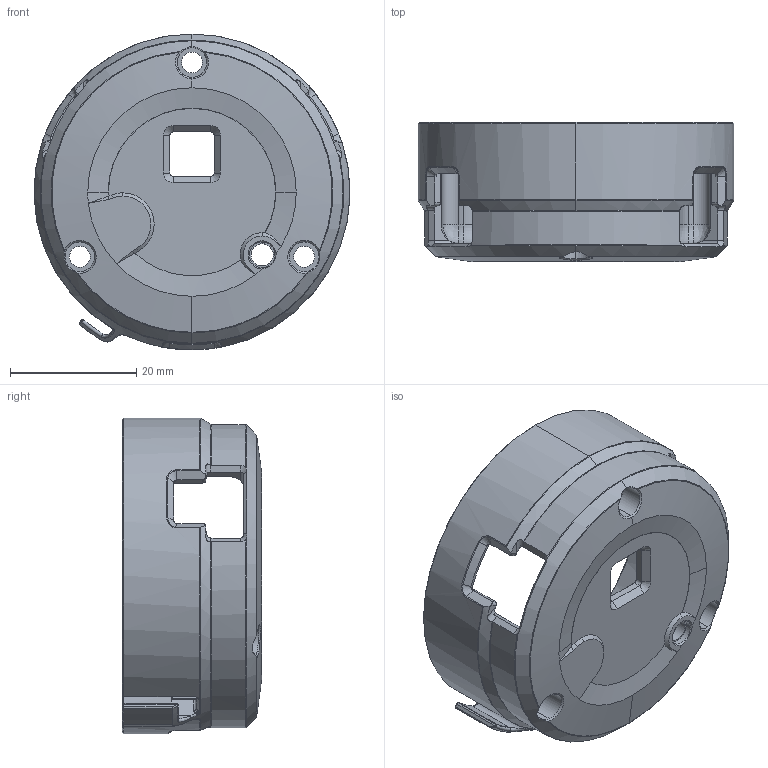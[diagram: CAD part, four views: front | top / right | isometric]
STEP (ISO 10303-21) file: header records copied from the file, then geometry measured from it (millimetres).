
FILE_DESCRIPTION (( 'STEP AP203' ), '1' );
FILE_NAME ('狟裔v3.STEP', '2025-03-22T13:48:33', ( '' ), ( '' ), 'SwSTEP 2.0', 'SolidWorks 2020', '' );
FILE_SCHEMA (( 'CONFIG_CONTROL_DESIGN' ));
Length unit declared in the file: millimetre
Products named in the file (1): 狟裔v3
Bounding box: 50 x 22 x 50 mm (x, y, z)
Volume: 9375.1 mm3; surface area: 9705.2 mm2
Topology: 1 solids, 1 shells, 322 faces, 853 edges, 517 vertices
Faces by surface type: cylinder 90, plane 74, cone 62, bspline 58, torus 37, sphere 1
Entity records: 16061 total; most frequent: CARTESIAN_POINT 8640, ORIENTED_EDGE 1688, DIRECTION 1363, EDGE_CURVE 844, AXIS2_PLACEMENT_3D 544, VERTEX_POINT 517, EDGE_LOOP 331, FACE_OUTER_BOUND 322
